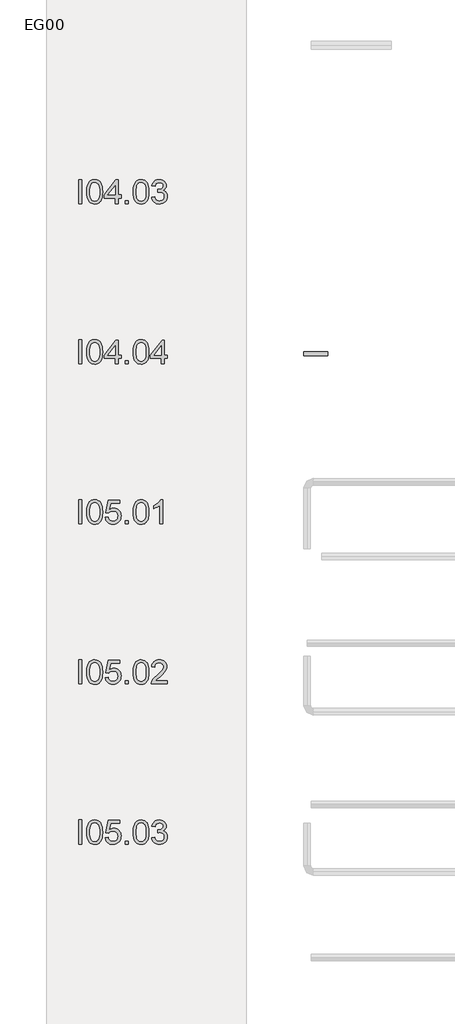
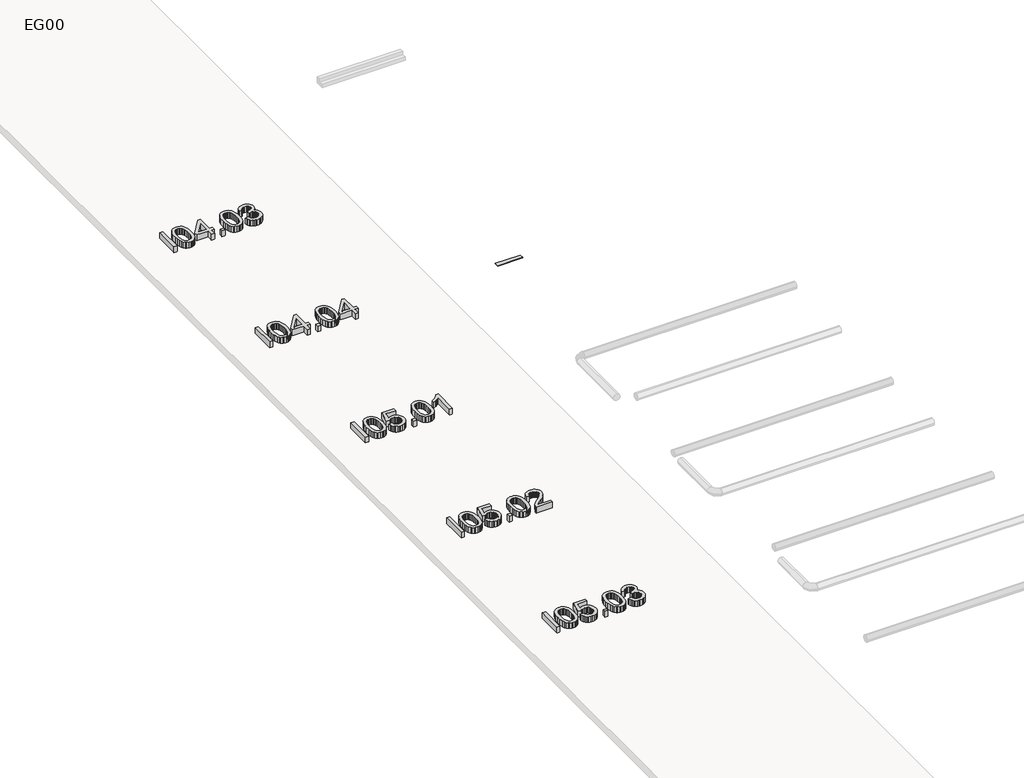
# One storey, part 6 of 11: 6 proxies.
"""IFC4 building model written with IfcOpenShell, lengths in millimetres."""

from ifc_helpers import new_model, si_unit, origin, origin_with_axes, place, context, project, spatial, polyline, outline, extrude, transform, mapped, element, save
from components import entourage_5a65eec9

model = new_model("IFC4")

# Units and contexts
model_context = context("Model", 3, world=origin())
ifc_project = project(units=[si_unit("LENGTHUNIT", "METRE", prefix="MILLI")], contexts=[model_context])

# Site, building, storey
site = spatial("IfcSite", under=ifc_project)
building = spatial("IfcBuilding", under=site)
storey = spatial("IfcBuildingStorey", under=building, Name="EG00", Elevation=0.0)

# Proxies
placement = place(None, origin())
entourage_shape = entourage_5a65eec9(model_context)
element("IfcBuildingElementProxy", 1, Name="Bodenmarkierung : Belagsmarkierung", ObjectType="Bodenmarkierung : Belagsmarkierung", at=placement, inside=storey, context=model_context, shape_type="MappedRepresentation", body=[
    mapped(entourage_shape, transform((47022.626143, -85813.9158724, -9.0), x_axis=(-1.0, 0.0, 0.0), y_axis=(0.0, -1.0, 0.0), z_axis=(0.0, 0.0, 1.0))),
])
element("IfcBuildingElementProxy", 2, Name="600mm Arial", ObjectType="600mm Arial", at=placement, inside=storey, context=model_context, shape_type="SweptSolid", body=[
    extrude(outline(polyline([(41098.4530284, -82070.0529019), (41098.4530284, -81467.315041), (41173.795261, -81467.315041), (41173.795261, -82070.0529019), (41098.4530284, -82070.0529019)])), origin_with_axes(), (0.0, 0.0, 1.0), 150.0),
    extrude(outline(polyline([(41296.226389, -81773.5400137), (41301.763013, -81677.0629605), (41308.6837931, -81636.1498841), (41318.3728851, -81600.1204412), (41330.7889025, -81568.6803262), (41345.8904584, -81541.5352335), (41363.6775528, -81518.6851631), (41384.1501859, -81500.1301149), (41407.3773353, -81485.7735201), (41433.4279791, -81475.5188095), (41462.3021172, -81469.3659831), (41493.9997496, -81467.315041), (41540.4264574, -81472.1710833), (41581.9971229, -81486.7392103), (41616.7619714, -81510.4492049), (41642.7712285, -81542.73085), (41662.416127, -81583.308234), (41678.0879, -81631.9054456), (41688.3518077, -81693.6176503), (41691.7731102, -81773.5400137), (41686.2916685, -81869.465244), (41679.4398663, -81910.2403646), (41669.8473433, -81946.2238223), (41657.527895, -81977.6777329), (41642.495317, -82004.8642123), (41624.7496092, -82027.7832606), (41604.2907718, -82046.4348778), (41581.0360312, -82060.8880417), (41554.9026139, -82071.2117301), (41525.8905201, -82077.4059432), (41493.9997496, -82079.4706809), (41452.5026606, -82075.8838315), (41415.7144611, -82065.1232831), (41383.6351511, -82047.1890359), (41356.2647306, -82022.0810897), (41329.9979562, -81976.6936485), (41311.2359744, -81920.1409888), (41299.9787854, -81852.4231106), (41296.226389, -81773.5400137)]), holes=[polyline([(41371.5686216, -81773.3928609), (41373.7759136, -81838.8896517), (41380.3977895, -81891.9060457), (41391.4342494, -81932.442043), (41406.8852932, -81960.4976437), (41425.5736985, -81979.5861207), (41446.3222431, -81993.2207472), (41469.1309268, -82001.401523), (41493.9997496, -82004.1284483), (41518.8685725, -82001.392326), (41541.6772562, -81993.183959), (41562.4258007, -81979.5033473), (41581.1142061, -81960.3504909), (41596.5652499, -81932.248905), (41607.6017097, -81891.7221047), (41614.2235857, -81838.77009), (41616.4308776, -81773.3928609), (41614.297162, -81709.6297141), (41607.8960153, -81657.5468207), (41597.2274375, -81617.1441805), (41582.2914285, -81588.4217938), (41563.9157228, -81568.3998162), (41542.928055, -81554.0984036), (41519.328425, -81545.5175561), (41493.1168328, -81542.6572736), (41468.3767687, -81545.1772652), (41445.9543611, -81552.7372402), (41425.84961, -81565.3371986), (41408.0625156, -81582.9771402), (41392.096437, -81614.2471098), (41380.6920951, -81656.4063865), (41373.84949, -81709.4549702), (41371.5686216, -81773.3928609)])]), origin_with_axes(), (0.0, 0.0, 1.0), 150.0),
    extrude(outline(polyline([(42002.5598198, -82070.0529019), (42002.5598198, -81928.7862157), (41729.4442265, -81928.7862157), (41729.4442265, -81853.4439831), (42021.3953779, -81476.73282), (42077.9020524, -81476.73282), (42077.9020524, -81853.4439831), (42153.244285, -81853.4439831), (42153.244285, -81928.7862157), (42077.9020524, -81928.7862157), (42077.9020524, -82070.0529019), (42002.5598198, -82070.0529019)]), holes=[polyline([(42002.5598198, -81853.4439831), (42002.5598198, -81620.6482566), (41822.1504893, -81853.4439831), (42002.5598198, -81853.4439831)])]), origin_with_axes(), (0.0, 0.0, 1.0), 150.0),
    extrude(outline(polyline([(42256.8398548, -82070.0529019), (42256.8398548, -81994.7106692), (42332.1820874, -81994.7106692), (42332.1820874, -82070.0529019), (42256.8398548, -82070.0529019)])), origin_with_axes(), (0.0, 0.0, 1.0), 150.0),
    extrude(outline(polyline([(42454.6132154, -81773.5400137), (42460.1498395, -81677.0629605), (42467.0706195, -81636.1498841), (42476.7597115, -81600.1204412), (42489.1757289, -81568.6803262), (42504.2772848, -81541.5352335), (42522.0643792, -81518.6851631), (42542.5370123, -81500.1301149), (42565.7641618, -81485.7735201), (42591.8148055, -81475.5188095), (42620.6889436, -81469.3659831), (42652.386576, -81467.315041), (42698.8132838, -81472.1710833), (42740.3839493, -81486.7392103), (42775.1487978, -81510.4492049), (42801.1580549, -81542.73085), (42820.8029534, -81583.308234), (42836.4747264, -81631.9054456), (42846.7386341, -81693.6176503), (42850.1599366, -81773.5400137), (42844.6784949, -81869.465244), (42837.8266928, -81910.2403646), (42828.2341697, -81946.2238223), (42815.9147214, -81977.6777329), (42800.8821434, -82004.8642123), (42783.1364357, -82027.7832606), (42762.6775982, -82046.4348778), (42739.4228576, -82060.8880417), (42713.2894403, -82071.2117301), (42684.2773465, -82077.4059432), (42652.386576, -82079.4706809), (42610.889487, -82075.8838315), (42574.1012875, -82065.1232831), (42542.0219775, -82047.1890359), (42514.651557, -82022.0810897), (42488.3847826, -81976.6936485), (42469.6228008, -81920.1409888), (42458.3656118, -81852.4231106), (42454.6132154, -81773.5400137)]), holes=[polyline([(42529.955448, -81773.3928609), (42532.16274, -81838.8896517), (42538.7846159, -81891.9060457), (42549.8210758, -81932.442043), (42565.2721196, -81960.4976437), (42583.9605249, -81979.5861207), (42604.7090695, -81993.2207472), (42627.5177532, -82001.401523), (42652.386576, -82004.1284483), (42677.2553989, -82001.392326), (42700.0640826, -81993.183959), (42720.8126271, -81979.5033473), (42739.5010325, -81960.3504909), (42754.9520763, -81932.248905), (42765.9885362, -81891.7221047), (42772.6104121, -81838.77009), (42774.817704, -81773.3928609), (42772.6839885, -81709.6297141), (42766.2828417, -81657.5468207), (42755.6142639, -81617.1441805), (42740.6782549, -81588.4217938), (42722.3025492, -81568.3998162), (42701.3148814, -81554.0984036), (42677.7152514, -81545.5175561), (42651.5036593, -81542.6572736), (42626.7635951, -81545.1772652), (42604.3411875, -81552.7372402), (42584.2364364, -81565.3371986), (42566.449342, -81582.9771402), (42550.4832634, -81614.2471098), (42539.0789215, -81656.4063865), (42532.2363164, -81709.4549702), (42529.955448, -81773.3928609)])]), origin_with_axes(), (0.0, 0.0, 1.0), 150.0),
    extrude(outline(polyline([(42916.0843902, -81909.9506576), (42991.4266228, -81900.5328785), (43008.2940123, -81947.8792913), (43019.6661644, -81965.7859474), (43032.9972882, -81979.8482366), (43048.5908863, -81990.4708293), (43066.7504613, -81998.0583954), (43087.4760132, -82002.6109351), (43110.767542, -82004.1284483), (43138.0643861, -82002.040718), (43162.4181742, -81995.777527), (43183.8289063, -81985.3388754), (43202.2965824, -81970.7247632), (43217.1682121, -81953.0296392), (43227.7908047, -81933.3479525), (43234.1643603, -81911.6797029), (43236.2888788, -81888.0248906), (43234.1827544, -81865.496717), (43227.8643811, -81845.0010913), (43217.333759, -81826.5380137), (43202.590888, -81810.1074841), (43184.6014585, -81796.6200104), (43164.3311605, -81786.9861007), (43141.7799942, -81781.2057548), (43116.9479595, -81779.2789729), (43093.1459945, -81781.339112), (43064.120105, -81787.5195296), (43072.5078145, -81712.177297), (43084.574344, -81713.0602137), (43129.7134648, -81707.6523484), (43170.0701197, -81691.4287524), (43186.6799917, -81679.1598879), (43198.5441861, -81663.9847556), (43205.6627027, -81645.9033555), (43208.0355416, -81624.9156877), (43206.3156932, -81607.8781528), (43201.1561482, -81592.3765252), (43192.5569066, -81578.410805), (43180.5179683, -81565.9809921), (43165.7659003, -81555.7768652), (43149.0272695, -81548.4882032), (43109.5903196, -81542.6572736), (43088.9337456, -81544.1288016), (43070.0797934, -81548.5433855), (43053.0284629, -81555.9010254), (43037.7797542, -81566.2017213), (43024.7107463, -81579.4454731), (43014.1985183, -81595.6322809), (43006.2430702, -81614.7621446), (43000.8444019, -81636.8350643), (42925.5021693, -81627.4172853), (42934.4325047, -81591.4476232), (42947.6854536, -81559.7637864), (42965.2610159, -81532.3657748), (42987.1591917, -81509.2535884), (43012.6902021, -81490.9054739), (43041.1642685, -81477.7996778), (43072.5813909, -81469.9362002), (43106.9415693, -81467.315041), (43154.3063762, -81472.483783), (43197.8084221, -81487.9900091), (43234.486257, -81512.4541618), (43261.3784309, -81544.4966836), (43277.8779383, -81581.4136418), (43283.3777742, -81620.5011038), (43278.1538498, -81656.9214213), (43262.4820768, -81689.9572244), (43236.5831844, -81718.1001971), (43200.6779017, -81739.842023), (43225.7858478, -81747.6963036), (43247.8403734, -81758.8983103), (43266.8414785, -81773.4480432), (43282.789163, -81791.3455023), (43295.4075154, -81812.1492291), (43304.4206243, -81835.4177653), (43309.8284896, -81861.1511109), (43311.6311114, -81889.3492658), (43308.0258678, -81927.5722051), (43297.2101372, -81962.7785121), (43279.1839194, -81994.9681866), (43253.9472146, -82024.1412289), (43223.2014768, -82048.3478641), (43188.6481604, -82065.6383179), (43150.2872654, -82076.0125902), (43108.1187917, -82079.4706809), (43070.006217, -82076.5184279), (43035.2781566, -82067.6616689), (43003.9346106, -82052.9004038), (42975.975579, -82032.2346328), (42952.5322989, -82006.8783662), (42934.7360073, -81978.0456149), (42922.5867044, -81945.7363786), (42916.0843902, -81909.9506576)])), origin_with_axes(), (0.0, 0.0, 1.0), 150.0),
])
element("IfcBuildingElementProxy", 3, Name="600mm Arial", ObjectType="600mm Arial", at=placement, inside=storey, context=model_context, shape_type="SweptSolid", body=[
    extrude(outline(polyline([(41098.4530284, -86070.0529019), (41098.4530284, -85467.315041), (41173.795261, -85467.315041), (41173.795261, -86070.0529019), (41098.4530284, -86070.0529019)])), origin_with_axes(), (0.0, 0.0, 1.0), 150.0),
    extrude(outline(polyline([(41296.226389, -85773.5400137), (41301.763013, -85677.0629605), (41308.6837931, -85636.1498841), (41318.3728851, -85600.1204412), (41330.7889025, -85568.6803262), (41345.8904584, -85541.5352335), (41363.6775528, -85518.6851631), (41384.1501859, -85500.1301149), (41407.3773353, -85485.7735201), (41433.4279791, -85475.5188095), (41462.3021172, -85469.3659831), (41493.9997496, -85467.315041), (41540.4264574, -85472.1710833), (41581.9971229, -85486.7392103), (41616.7619714, -85510.4492049), (41642.7712285, -85542.73085), (41662.416127, -85583.308234), (41678.0879, -85631.9054456), (41688.3518077, -85693.6176503), (41691.7731102, -85773.5400137), (41686.2916685, -85869.465244), (41679.4398663, -85910.2403646), (41669.8473433, -85946.2238223), (41657.527895, -85977.6777329), (41642.495317, -86004.8642123), (41624.7496092, -86027.7832606), (41604.2907718, -86046.4348778), (41581.0360312, -86060.8880417), (41554.9026139, -86071.2117301), (41525.8905201, -86077.4059432), (41493.9997496, -86079.4706809), (41452.5026606, -86075.8838315), (41415.7144611, -86065.1232831), (41383.6351511, -86047.1890359), (41356.2647306, -86022.0810897), (41329.9979562, -85976.6936485), (41311.2359744, -85920.1409888), (41299.9787854, -85852.4231106), (41296.226389, -85773.5400137)]), holes=[polyline([(41371.5686216, -85773.3928609), (41373.7759136, -85838.8896517), (41380.3977895, -85891.9060457), (41391.4342494, -85932.442043), (41406.8852932, -85960.4976437), (41425.5736985, -85979.5861207), (41446.3222431, -85993.2207472), (41469.1309268, -86001.401523), (41493.9997496, -86004.1284483), (41518.8685725, -86001.392326), (41541.6772562, -85993.183959), (41562.4258007, -85979.5033473), (41581.1142061, -85960.3504909), (41596.5652499, -85932.248905), (41607.6017097, -85891.7221047), (41614.2235857, -85838.77009), (41616.4308776, -85773.3928609), (41614.297162, -85709.6297141), (41607.8960153, -85657.5468207), (41597.2274375, -85617.1441805), (41582.2914285, -85588.4217938), (41563.9157228, -85568.3998162), (41542.928055, -85554.0984036), (41519.328425, -85545.5175561), (41493.1168328, -85542.6572736), (41468.3767687, -85545.1772652), (41445.9543611, -85552.7372402), (41425.84961, -85565.3371986), (41408.0625156, -85582.9771402), (41392.096437, -85614.2471098), (41380.6920951, -85656.4063865), (41373.84949, -85709.4549702), (41371.5686216, -85773.3928609)])]), origin_with_axes(), (0.0, 0.0, 1.0), 150.0),
    extrude(outline(polyline([(42002.5598198, -86070.0529019), (42002.5598198, -85928.7862157), (41729.4442265, -85928.7862157), (41729.4442265, -85853.4439831), (42021.3953779, -85476.73282), (42077.9020524, -85476.73282), (42077.9020524, -85853.4439831), (42153.244285, -85853.4439831), (42153.244285, -85928.7862157), (42077.9020524, -85928.7862157), (42077.9020524, -86070.0529019), (42002.5598198, -86070.0529019)]), holes=[polyline([(42002.5598198, -85853.4439831), (42002.5598198, -85620.6482566), (41822.1504893, -85853.4439831), (42002.5598198, -85853.4439831)])]), origin_with_axes(), (0.0, 0.0, 1.0), 150.0),
    extrude(outline(polyline([(42256.8398548, -86070.0529019), (42256.8398548, -85994.7106692), (42332.1820874, -85994.7106692), (42332.1820874, -86070.0529019), (42256.8398548, -86070.0529019)])), origin_with_axes(), (0.0, 0.0, 1.0), 150.0),
    extrude(outline(polyline([(42454.6132154, -85773.5400137), (42460.1498395, -85677.0629605), (42467.0706195, -85636.1498841), (42476.7597115, -85600.1204412), (42489.1757289, -85568.6803262), (42504.2772848, -85541.5352335), (42522.0643792, -85518.6851631), (42542.5370123, -85500.1301149), (42565.7641618, -85485.7735201), (42591.8148055, -85475.5188095), (42620.6889436, -85469.3659831), (42652.386576, -85467.315041), (42698.8132838, -85472.1710833), (42740.3839493, -85486.7392103), (42775.1487978, -85510.4492049), (42801.1580549, -85542.73085), (42820.8029534, -85583.308234), (42836.4747264, -85631.9054456), (42846.7386341, -85693.6176503), (42850.1599366, -85773.5400137), (42844.6784949, -85869.465244), (42837.8266928, -85910.2403646), (42828.2341697, -85946.2238223), (42815.9147214, -85977.6777329), (42800.8821434, -86004.8642123), (42783.1364357, -86027.7832606), (42762.6775982, -86046.4348778), (42739.4228576, -86060.8880417), (42713.2894403, -86071.2117301), (42684.2773465, -86077.4059432), (42652.386576, -86079.4706809), (42610.889487, -86075.8838315), (42574.1012875, -86065.1232831), (42542.0219775, -86047.1890359), (42514.651557, -86022.0810897), (42488.3847826, -85976.6936485), (42469.6228008, -85920.1409888), (42458.3656118, -85852.4231106), (42454.6132154, -85773.5400137)]), holes=[polyline([(42529.955448, -85773.3928609), (42532.16274, -85838.8896517), (42538.7846159, -85891.9060457), (42549.8210758, -85932.442043), (42565.2721196, -85960.4976437), (42583.9605249, -85979.5861207), (42604.7090695, -85993.2207472), (42627.5177532, -86001.401523), (42652.386576, -86004.1284483), (42677.2553989, -86001.392326), (42700.0640826, -85993.183959), (42720.8126271, -85979.5033473), (42739.5010325, -85960.3504909), (42754.9520763, -85932.248905), (42765.9885362, -85891.7221047), (42772.6104121, -85838.77009), (42774.817704, -85773.3928609), (42772.6839885, -85709.6297141), (42766.2828417, -85657.5468207), (42755.6142639, -85617.1441805), (42740.6782549, -85588.4217938), (42722.3025492, -85568.3998162), (42701.3148814, -85554.0984036), (42677.7152514, -85545.5175561), (42651.5036593, -85542.6572736), (42626.7635951, -85545.1772652), (42604.3411875, -85552.7372402), (42584.2364364, -85565.3371986), (42566.449342, -85582.9771402), (42550.4832634, -85614.2471098), (42539.0789215, -85656.4063865), (42532.2363164, -85709.4549702), (42529.955448, -85773.3928609)])]), origin_with_axes(), (0.0, 0.0, 1.0), 150.0),
    extrude(outline(polyline([(43160.9466462, -86070.0529019), (43160.9466462, -85928.7862157), (42887.831053, -85928.7862157), (42887.831053, -85853.4439831), (43179.7822043, -85476.73282), (43236.2888788, -85476.73282), (43236.2888788, -85853.4439831), (43311.6311114, -85853.4439831), (43311.6311114, -85928.7862157), (43236.2888788, -85928.7862157), (43236.2888788, -86070.0529019), (43160.9466462, -86070.0529019)]), holes=[polyline([(43160.9466462, -85853.4439831), (43160.9466462, -85620.6482566), (42980.5373157, -85853.4439831), (43160.9466462, -85853.4439831)])]), origin_with_axes(), (0.0, 0.0, 1.0), 150.0),
])
element("IfcBuildingElementProxy", 4, Name="600mm Arial", ObjectType="600mm Arial", at=placement, inside=storey, context=model_context, shape_type="SweptSolid", body=[
    extrude(outline(polyline([(41098.4530284, -90070.0529019), (41098.4530284, -89467.315041), (41173.795261, -89467.315041), (41173.795261, -90070.0529019), (41098.4530284, -90070.0529019)])), origin_with_axes(), (0.0, 0.0, 1.0), 150.0),
    extrude(outline(polyline([(41296.226389, -89773.5400137), (41301.763013, -89677.0629605), (41308.6837931, -89636.1498841), (41318.3728851, -89600.1204412), (41330.7889025, -89568.6803262), (41345.8904584, -89541.5352335), (41363.6775528, -89518.6851631), (41384.1501859, -89500.1301149), (41407.3773353, -89485.7735201), (41433.4279791, -89475.5188095), (41462.3021172, -89469.3659831), (41493.9997496, -89467.315041), (41540.4264574, -89472.1710833), (41581.9971229, -89486.7392103), (41616.7619714, -89510.4492049), (41642.7712285, -89542.73085), (41662.416127, -89583.308234), (41678.0879, -89631.9054456), (41688.3518077, -89693.6176503), (41691.7731102, -89773.5400137), (41686.2916685, -89869.465244), (41679.4398663, -89910.2403646), (41669.8473433, -89946.2238223), (41657.527895, -89977.6777329), (41642.495317, -90004.8642123), (41624.7496092, -90027.7832606), (41604.2907718, -90046.4348778), (41581.0360312, -90060.8880417), (41554.9026139, -90071.2117301), (41525.8905201, -90077.4059432), (41493.9997496, -90079.4706809), (41452.5026606, -90075.8838315), (41415.7144611, -90065.1232831), (41383.6351511, -90047.1890359), (41356.2647306, -90022.0810897), (41329.9979562, -89976.6936485), (41311.2359744, -89920.1409888), (41299.9787854, -89852.4231106), (41296.226389, -89773.5400137)]), holes=[polyline([(41371.5686216, -89773.3928609), (41373.7759136, -89838.8896517), (41380.3977895, -89891.9060457), (41391.4342494, -89932.442043), (41406.8852932, -89960.4976437), (41425.5736985, -89979.5861207), (41446.3222431, -89993.2207472), (41469.1309268, -90001.401523), (41493.9997496, -90004.1284483), (41518.8685725, -90001.392326), (41541.6772562, -89993.183959), (41562.4258007, -89979.5033473), (41581.1142061, -89960.3504909), (41596.5652499, -89932.248905), (41607.6017097, -89891.7221047), (41614.2235857, -89838.77009), (41616.4308776, -89773.3928609), (41614.297162, -89709.6297141), (41607.8960153, -89657.5468207), (41597.2274375, -89617.1441805), (41582.2914285, -89588.4217938), (41563.9157228, -89568.3998162), (41542.928055, -89554.0984036), (41519.328425, -89545.5175561), (41493.1168328, -89542.6572736), (41468.3767687, -89545.1772652), (41445.9543611, -89552.7372402), (41425.84961, -89565.3371986), (41408.0625156, -89582.9771402), (41392.096437, -89614.2471098), (41380.6920951, -89656.4063865), (41373.84949, -89709.4549702), (41371.5686216, -89773.3928609)])]), origin_with_axes(), (0.0, 0.0, 1.0), 150.0),
    extrude(outline(polyline([(41757.6975638, -89909.9506576), (41833.0397964, -89900.5328785), (41838.6683909, -89924.7533093), (41846.8721594, -89945.7639698), (41857.6511019, -89963.5648598), (41871.0052183, -89978.1559795), (41886.9069175, -89989.5189346), (41905.3286084, -89997.6353311), (41926.270291, -90002.505169), (41949.7319653, -90004.1284483), (41978.4267609, -90001.8705726), (42003.7370421, -89995.0969453), (42025.6628091, -89983.8075666), (42044.2040616, -89968.0024364), (42058.9469326, -89948.4633039), (42069.4775547, -89925.9719184), (42075.7959279, -89900.52828), (42077.9020524, -89872.1323885), (42075.9292852, -89845.2953969), (42070.0109836, -89821.4382495), (42060.1471476, -89800.5609463), (42046.3377772, -89782.6634872), (42028.5368871, -89768.3068924), (42006.6984922, -89758.0521818), (41980.8225924, -89751.8993554), (41950.9091876, -89749.8484133), (41914.3601114, -89753.122563), (41884.7640049, -89762.9450123), (41861.1275867, -89777.9913859), (41842.4575755, -89796.9373086), (41767.1153428, -89787.5195296), (41833.0397964, -89476.73282), (42124.9909478, -89476.73282), (42124.9909478, -89552.0750527), (41893.9610548, -89552.0750527), (41861.734592, -89718.0634089), (41888.3232632, -89699.0071215), (41915.5557279, -89685.3954877), (41943.4319861, -89677.2285074), (41971.9520378, -89674.5061806), (42008.6436683, -89677.881498), (42042.3462575, -89688.0074499), (42073.0598056, -89704.8840364), (42100.7843125, -89728.5112575), (42123.7355504, -89757.4451765), (42140.1292919, -89790.2418563), (42149.9655367, -89826.9012971), (42153.244285, -89867.4234989), (42150.292032, -89906.4557786), (42141.4352729, -89942.7657315), (42126.6740079, -89976.3533577), (42106.0082368, -90007.2186571), (42074.701479, -90038.8289175), (42038.1707969, -90061.407675), (41996.4161904, -90074.9549294), (41949.4376597, -90079.4706809), (41910.5571313, -90076.5690117), (41875.4381963, -90067.864004), (41844.0808548, -90053.3556578), (41816.4851066, -90033.0439731), (41793.5246716, -90007.9406255), (41776.0732694, -89979.0572904), (41764.1309002, -89946.3939677), (41757.6975638, -89909.9506576)])), origin_with_axes(), (0.0, 0.0, 1.0), 150.0),
    extrude(outline(polyline([(42256.8398548, -90070.0529019), (42256.8398548, -89994.7106692), (42332.1820874, -89994.7106692), (42332.1820874, -90070.0529019), (42256.8398548, -90070.0529019)])), origin_with_axes(), (0.0, 0.0, 1.0), 150.0),
    extrude(outline(polyline([(42454.6132154, -89773.5400137), (42460.1498395, -89677.0629605), (42467.0706195, -89636.1498841), (42476.7597115, -89600.1204412), (42489.1757289, -89568.6803262), (42504.2772848, -89541.5352335), (42522.0643792, -89518.6851631), (42542.5370123, -89500.1301149), (42565.7641618, -89485.7735201), (42591.8148055, -89475.5188095), (42620.6889436, -89469.3659831), (42652.386576, -89467.315041), (42698.8132838, -89472.1710833), (42740.3839493, -89486.7392103), (42775.1487978, -89510.4492049), (42801.1580549, -89542.73085), (42820.8029534, -89583.308234), (42836.4747264, -89631.9054456), (42846.7386341, -89693.6176503), (42850.1599366, -89773.5400137), (42844.6784949, -89869.465244), (42837.8266928, -89910.2403646), (42828.2341697, -89946.2238223), (42815.9147214, -89977.6777329), (42800.8821434, -90004.8642123), (42783.1364357, -90027.7832606), (42762.6775982, -90046.4348778), (42739.4228576, -90060.8880417), (42713.2894403, -90071.2117301), (42684.2773465, -90077.4059432), (42652.386576, -90079.4706809), (42610.889487, -90075.8838315), (42574.1012875, -90065.1232831), (42542.0219775, -90047.1890359), (42514.651557, -90022.0810897), (42488.3847826, -89976.6936485), (42469.6228008, -89920.1409888), (42458.3656118, -89852.4231106), (42454.6132154, -89773.5400137)]), holes=[polyline([(42529.955448, -89773.3928609), (42532.16274, -89838.8896517), (42538.7846159, -89891.9060457), (42549.8210758, -89932.442043), (42565.2721196, -89960.4976437), (42583.9605249, -89979.5861207), (42604.7090695, -89993.2207472), (42627.5177532, -90001.401523), (42652.386576, -90004.1284483), (42677.2553989, -90001.392326), (42700.0640826, -89993.183959), (42720.8126271, -89979.5033473), (42739.5010325, -89960.3504909), (42754.9520763, -89932.248905), (42765.9885362, -89891.7221047), (42772.6104121, -89838.77009), (42774.817704, -89773.3928609), (42772.6839885, -89709.6297141), (42766.2828417, -89657.5468207), (42755.6142639, -89617.1441805), (42740.6782549, -89588.4217938), (42722.3025492, -89568.3998162), (42701.3148814, -89554.0984036), (42677.7152514, -89545.5175561), (42651.5036593, -89542.6572736), (42626.7635951, -89545.1772652), (42604.3411875, -89552.7372402), (42584.2364364, -89565.3371986), (42566.449342, -89582.9771402), (42550.4832634, -89614.2471098), (42539.0789215, -89656.4063865), (42532.2363164, -89709.4549702), (42529.955448, -89773.3928609)])]), origin_with_axes(), (0.0, 0.0, 1.0), 150.0),
    extrude(outline(polyline([(43198.6177625, -90070.0529019), (43123.2755299, -90070.0529019), (43123.2755299, -89600.3411704), (43091.8216193, -89625.7802104), (43051.9064228, -89651.1824622), (43010.0046636, -89673.3841406), (42972.5910646, -89689.2214605), (42972.5910646, -89617.9995062), (43031.7648836, -89585.8098316), (43083.0292396, -89547.5133159), (43123.4410768, -89506.788779), (43150.0573391, -89467.315041), (43198.6177625, -89467.315041), (43198.6177625, -90070.0529019)])), origin_with_axes(), (0.0, 0.0, 1.0), 150.0),
])
element("IfcBuildingElementProxy", 5, Name="600mm Arial", ObjectType="600mm Arial", at=placement, inside=storey, context=model_context, shape_type="SweptSolid", body=[
    extrude(outline(polyline([(41098.4530284, -94070.0529019), (41098.4530284, -93467.315041), (41173.795261, -93467.315041), (41173.795261, -94070.0529019), (41098.4530284, -94070.0529019)])), origin_with_axes(), (0.0, 0.0, 1.0), 150.0),
    extrude(outline(polyline([(41296.226389, -93773.5400137), (41301.763013, -93677.0629605), (41308.6837931, -93636.1498841), (41318.3728851, -93600.1204412), (41330.7889025, -93568.6803262), (41345.8904584, -93541.5352335), (41363.6775528, -93518.6851631), (41384.1501859, -93500.1301149), (41407.3773353, -93485.7735201), (41433.4279791, -93475.5188095), (41462.3021172, -93469.3659831), (41493.9997496, -93467.315041), (41540.4264574, -93472.1710833), (41581.9971229, -93486.7392103), (41616.7619714, -93510.4492049), (41642.7712285, -93542.73085), (41662.416127, -93583.308234), (41678.0879, -93631.9054456), (41688.3518077, -93693.6176503), (41691.7731102, -93773.5400137), (41686.2916685, -93869.465244), (41679.4398663, -93910.2403646), (41669.8473433, -93946.2238223), (41657.527895, -93977.6777329), (41642.495317, -94004.8642123), (41624.7496092, -94027.7832606), (41604.2907718, -94046.4348778), (41581.0360312, -94060.8880417), (41554.9026139, -94071.2117301), (41525.8905201, -94077.4059432), (41493.9997496, -94079.4706809), (41452.5026606, -94075.8838315), (41415.7144611, -94065.1232831), (41383.6351511, -94047.1890359), (41356.2647306, -94022.0810897), (41329.9979562, -93976.6936485), (41311.2359744, -93920.1409888), (41299.9787854, -93852.4231106), (41296.226389, -93773.5400137)]), holes=[polyline([(41371.5686216, -93773.3928609), (41373.7759136, -93838.8896517), (41380.3977895, -93891.9060457), (41391.4342494, -93932.442043), (41406.8852932, -93960.4976437), (41425.5736985, -93979.5861207), (41446.3222431, -93993.2207472), (41469.1309268, -94001.401523), (41493.9997496, -94004.1284483), (41518.8685725, -94001.392326), (41541.6772562, -93993.183959), (41562.4258007, -93979.5033473), (41581.1142061, -93960.3504909), (41596.5652499, -93932.248905), (41607.6017097, -93891.7221047), (41614.2235857, -93838.77009), (41616.4308776, -93773.3928609), (41614.297162, -93709.6297141), (41607.8960153, -93657.5468207), (41597.2274375, -93617.1441805), (41582.2914285, -93588.4217938), (41563.9157228, -93568.3998162), (41542.928055, -93554.0984036), (41519.328425, -93545.5175561), (41493.1168328, -93542.6572736), (41468.3767687, -93545.1772652), (41445.9543611, -93552.7372402), (41425.84961, -93565.3371986), (41408.0625156, -93582.9771402), (41392.096437, -93614.2471098), (41380.6920951, -93656.4063865), (41373.84949, -93709.4549702), (41371.5686216, -93773.3928609)])]), origin_with_axes(), (0.0, 0.0, 1.0), 150.0),
    extrude(outline(polyline([(41757.6975638, -93909.9506576), (41833.0397964, -93900.5328785), (41838.6683909, -93924.7533093), (41846.8721594, -93945.7639698), (41857.6511019, -93963.5648598), (41871.0052183, -93978.1559795), (41886.9069175, -93989.5189346), (41905.3286084, -93997.6353311), (41926.270291, -94002.505169), (41949.7319653, -94004.1284483), (41978.4267609, -94001.8705726), (42003.7370421, -93995.0969453), (42025.6628091, -93983.8075666), (42044.2040616, -93968.0024364), (42058.9469326, -93948.4633039), (42069.4775547, -93925.9719184), (42075.7959279, -93900.52828), (42077.9020524, -93872.1323885), (42075.9292852, -93845.2953969), (42070.0109836, -93821.4382495), (42060.1471476, -93800.5609463), (42046.3377772, -93782.6634872), (42028.5368871, -93768.3068924), (42006.6984922, -93758.0521818), (41980.8225924, -93751.8993554), (41950.9091876, -93749.8484133), (41914.3601114, -93753.122563), (41884.7640049, -93762.9450123), (41861.1275867, -93777.9913859), (41842.4575755, -93796.9373086), (41767.1153428, -93787.5195296), (41833.0397964, -93476.73282), (42124.9909478, -93476.73282), (42124.9909478, -93552.0750527), (41893.9610548, -93552.0750527), (41861.734592, -93718.0634089), (41888.3232632, -93699.0071215), (41915.5557279, -93685.3954877), (41943.4319861, -93677.2285074), (41971.9520378, -93674.5061806), (42008.6436683, -93677.881498), (42042.3462575, -93688.0074499), (42073.0598056, -93704.8840364), (42100.7843125, -93728.5112575), (42123.7355504, -93757.4451765), (42140.1292919, -93790.2418563), (42149.9655367, -93826.9012971), (42153.244285, -93867.4234989), (42150.292032, -93906.4557786), (42141.4352729, -93942.7657315), (42126.6740079, -93976.3533577), (42106.0082368, -94007.2186571), (42074.701479, -94038.8289175), (42038.1707969, -94061.407675), (41996.4161904, -94074.9549294), (41949.4376597, -94079.4706809), (41910.5571313, -94076.5690117), (41875.4381963, -94067.864004), (41844.0808548, -94053.3556578), (41816.4851066, -94033.0439731), (41793.5246716, -94007.9406255), (41776.0732694, -93979.0572904), (41764.1309002, -93946.3939677), (41757.6975638, -93909.9506576)])), origin_with_axes(), (0.0, 0.0, 1.0), 150.0),
    extrude(outline(polyline([(42256.8398548, -94070.0529019), (42256.8398548, -93994.7106692), (42332.1820874, -93994.7106692), (42332.1820874, -94070.0529019), (42256.8398548, -94070.0529019)])), origin_with_axes(), (0.0, 0.0, 1.0), 150.0),
    extrude(outline(polyline([(42454.6132154, -93773.5400137), (42460.1498395, -93677.0629605), (42467.0706195, -93636.1498841), (42476.7597115, -93600.1204412), (42489.1757289, -93568.6803262), (42504.2772848, -93541.5352335), (42522.0643792, -93518.6851631), (42542.5370123, -93500.1301149), (42565.7641618, -93485.7735201), (42591.8148055, -93475.5188095), (42620.6889436, -93469.3659831), (42652.386576, -93467.315041), (42698.8132838, -93472.1710833), (42740.3839493, -93486.7392103), (42775.1487978, -93510.4492049), (42801.1580549, -93542.73085), (42820.8029534, -93583.308234), (42836.4747264, -93631.9054456), (42846.7386341, -93693.6176503), (42850.1599366, -93773.5400137), (42844.6784949, -93869.465244), (42837.8266928, -93910.2403646), (42828.2341697, -93946.2238223), (42815.9147214, -93977.6777329), (42800.8821434, -94004.8642123), (42783.1364357, -94027.7832606), (42762.6775982, -94046.4348778), (42739.4228576, -94060.8880417), (42713.2894403, -94071.2117301), (42684.2773465, -94077.4059432), (42652.386576, -94079.4706809), (42610.889487, -94075.8838315), (42574.1012875, -94065.1232831), (42542.0219775, -94047.1890359), (42514.651557, -94022.0810897), (42488.3847826, -93976.6936485), (42469.6228008, -93920.1409888), (42458.3656118, -93852.4231106), (42454.6132154, -93773.5400137)]), holes=[polyline([(42529.955448, -93773.3928609), (42532.16274, -93838.8896517), (42538.7846159, -93891.9060457), (42549.8210758, -93932.442043), (42565.2721196, -93960.4976437), (42583.9605249, -93979.5861207), (42604.7090695, -93993.2207472), (42627.5177532, -94001.401523), (42652.386576, -94004.1284483), (42677.2553989, -94001.392326), (42700.0640826, -93993.183959), (42720.8126271, -93979.5033473), (42739.5010325, -93960.3504909), (42754.9520763, -93932.248905), (42765.9885362, -93891.7221047), (42772.6104121, -93838.77009), (42774.817704, -93773.3928609), (42772.6839885, -93709.6297141), (42766.2828417, -93657.5468207), (42755.6142639, -93617.1441805), (42740.6782549, -93588.4217938), (42722.3025492, -93568.3998162), (42701.3148814, -93554.0984036), (42677.7152514, -93545.5175561), (42651.5036593, -93542.6572736), (42626.7635951, -93545.1772652), (42604.3411875, -93552.7372402), (42584.2364364, -93565.3371986), (42566.449342, -93582.9771402), (42550.4832634, -93614.2471098), (42539.0789215, -93656.4063865), (42532.2363164, -93709.4549702), (42529.955448, -93773.3928609)])]), origin_with_axes(), (0.0, 0.0, 1.0), 150.0),
    extrude(outline(polyline([(43302.2133323, -93994.7106692), (43302.2133323, -94070.0529019), (42906.6666111, -94070.0529019), (42908.3220801, -94043.52861), (42914.760015, -94018.1079641), (42933.3380558, -93977.512186), (42960.5245352, -93938.1304184), (42999.8511205, -93896.9092408), (43054.8494788, -93850.7952327), (43136.1513997, -93778.5799971), (43184.9325523, -93725.273896), (43199.1603884, -93703.4952819), (43209.3231285, -93682.0109733), (43215.4207726, -93660.8209704), (43217.4533206, -93639.9252731), (43215.5357357, -93620.266579), (43209.782981, -93602.1989745), (43200.1950565, -93585.7224596), (43186.7719622, -93570.8370344), (43170.2586592, -93558.508389), (43151.4001084, -93549.7022138), (43130.1963099, -93544.4185086), (43106.6472637, -93542.6572736), (43081.8382216, -93544.3771219), (43059.6503388, -93549.5366669), (43040.0836152, -93558.1359085), (43023.1380508, -93570.1748468), (43009.4298479, -93585.2488116), (42999.575209, -93602.9531326), (42993.5741339, -93623.2878099), (42991.4266228, -93646.2528434), (42916.0843902, -93636.8350643), (42922.5637118, -93597.9407404), (42934.3497312, -93563.9576411), (42951.4424484, -93534.8857664), (42973.8418634, -93510.7251164), (43001.0329414, -93491.7332084), (43032.5006476, -93478.1675598), (43068.2449819, -93470.0281707), (43108.2659445, -93467.315041), (43148.645592, -93470.3316733), (43184.5830644, -93479.3815704), (43216.0783617, -93494.4647322), (43243.1314839, -93515.5811587), (43264.8595142, -93541.1673515), (43280.3795359, -93569.659812), (43289.6915489, -93601.0585403), (43292.7955532, -93635.3635364), (43289.4478271, -93671.3975778), (43279.4046486, -93706.8062198), (43261.580766, -93742.8218672), (43234.8909272, -93780.6769245), (43192.3453745, -93825.8712276), (43126.9543498, -93883.9046123), (43040.2813518, -93956.3773654), (43006.2890554, -93994.7106692), (43302.2133323, -93994.7106692)])), origin_with_axes(), (0.0, 0.0, 1.0), 150.0),
])
element("IfcBuildingElementProxy", 6, Name="600mm Arial", ObjectType="600mm Arial", at=placement, inside=storey, context=model_context, shape_type="SweptSolid", body=[
    extrude(outline(polyline([(41098.4530284, -98070.0529019), (41098.4530284, -97467.315041), (41173.795261, -97467.315041), (41173.795261, -98070.0529019), (41098.4530284, -98070.0529019)])), origin_with_axes(), (0.0, 0.0, 1.0), 150.0),
    extrude(outline(polyline([(41296.226389, -97773.5400137), (41301.763013, -97677.0629605), (41308.6837931, -97636.1498841), (41318.3728851, -97600.1204412), (41330.7889025, -97568.6803262), (41345.8904584, -97541.5352335), (41363.6775528, -97518.6851631), (41384.1501859, -97500.1301149), (41407.3773353, -97485.7735201), (41433.4279791, -97475.5188095), (41462.3021172, -97469.3659831), (41493.9997496, -97467.315041), (41540.4264574, -97472.1710833), (41581.9971229, -97486.7392103), (41616.7619714, -97510.4492049), (41642.7712285, -97542.73085), (41662.416127, -97583.308234), (41678.0879, -97631.9054456), (41688.3518077, -97693.6176503), (41691.7731102, -97773.5400137), (41686.2916685, -97869.465244), (41679.4398663, -97910.2403646), (41669.8473433, -97946.2238223), (41657.527895, -97977.6777329), (41642.495317, -98004.8642123), (41624.7496092, -98027.7832606), (41604.2907718, -98046.4348778), (41581.0360312, -98060.8880417), (41554.9026139, -98071.2117301), (41525.8905201, -98077.4059432), (41493.9997496, -98079.4706809), (41452.5026606, -98075.8838315), (41415.7144611, -98065.1232831), (41383.6351511, -98047.1890359), (41356.2647306, -98022.0810897), (41329.9979562, -97976.6936485), (41311.2359744, -97920.1409888), (41299.9787854, -97852.4231106), (41296.226389, -97773.5400137)]), holes=[polyline([(41371.5686216, -97773.3928609), (41373.7759136, -97838.8896517), (41380.3977895, -97891.9060457), (41391.4342494, -97932.442043), (41406.8852932, -97960.4976437), (41425.5736985, -97979.5861207), (41446.3222431, -97993.2207472), (41469.1309268, -98001.401523), (41493.9997496, -98004.1284483), (41518.8685725, -98001.392326), (41541.6772562, -97993.183959), (41562.4258007, -97979.5033473), (41581.1142061, -97960.3504909), (41596.5652499, -97932.248905), (41607.6017097, -97891.7221047), (41614.2235857, -97838.77009), (41616.4308776, -97773.3928609), (41614.297162, -97709.6297141), (41607.8960153, -97657.5468207), (41597.2274375, -97617.1441805), (41582.2914285, -97588.4217938), (41563.9157228, -97568.3998162), (41542.928055, -97554.0984036), (41519.328425, -97545.5175561), (41493.1168328, -97542.6572736), (41468.3767687, -97545.1772652), (41445.9543611, -97552.7372402), (41425.84961, -97565.3371986), (41408.0625156, -97582.9771402), (41392.096437, -97614.2471098), (41380.6920951, -97656.4063865), (41373.84949, -97709.4549702), (41371.5686216, -97773.3928609)])]), origin_with_axes(), (0.0, 0.0, 1.0), 150.0),
    extrude(outline(polyline([(41757.6975638, -97909.9506576), (41833.0397964, -97900.5328785), (41838.6683909, -97924.7533093), (41846.8721594, -97945.7639698), (41857.6511019, -97963.5648598), (41871.0052183, -97978.1559795), (41886.9069175, -97989.5189346), (41905.3286084, -97997.6353311), (41926.270291, -98002.505169), (41949.7319653, -98004.1284483), (41978.4267609, -98001.8705726), (42003.7370421, -97995.0969453), (42025.6628091, -97983.8075666), (42044.2040616, -97968.0024364), (42058.9469326, -97948.4633039), (42069.4775547, -97925.9719184), (42075.7959279, -97900.52828), (42077.9020524, -97872.1323885), (42075.9292852, -97845.2953969), (42070.0109836, -97821.4382495), (42060.1471476, -97800.5609463), (42046.3377772, -97782.6634872), (42028.5368871, -97768.3068924), (42006.6984922, -97758.0521818), (41980.8225924, -97751.8993554), (41950.9091876, -97749.8484133), (41914.3601114, -97753.122563), (41884.7640049, -97762.9450123), (41861.1275867, -97777.9913859), (41842.4575755, -97796.9373086), (41767.1153428, -97787.5195296), (41833.0397964, -97476.73282), (42124.9909478, -97476.73282), (42124.9909478, -97552.0750527), (41893.9610548, -97552.0750527), (41861.734592, -97718.0634089), (41888.3232632, -97699.0071215), (41915.5557279, -97685.3954877), (41943.4319861, -97677.2285074), (41971.9520378, -97674.5061806), (42008.6436683, -97677.881498), (42042.3462575, -97688.0074499), (42073.0598056, -97704.8840364), (42100.7843125, -97728.5112575), (42123.7355504, -97757.4451765), (42140.1292919, -97790.2418563), (42149.9655367, -97826.9012971), (42153.244285, -97867.4234989), (42150.292032, -97906.4557786), (42141.4352729, -97942.7657315), (42126.6740079, -97976.3533577), (42106.0082368, -98007.2186571), (42074.701479, -98038.8289175), (42038.1707969, -98061.407675), (41996.4161904, -98074.9549294), (41949.4376597, -98079.4706809), (41910.5571313, -98076.5690117), (41875.4381963, -98067.864004), (41844.0808548, -98053.3556578), (41816.4851066, -98033.0439731), (41793.5246716, -98007.9406255), (41776.0732694, -97979.0572904), (41764.1309002, -97946.3939677), (41757.6975638, -97909.9506576)])), origin_with_axes(), (0.0, 0.0, 1.0), 150.0),
    extrude(outline(polyline([(42256.8398548, -98070.0529019), (42256.8398548, -97994.7106692), (42332.1820874, -97994.7106692), (42332.1820874, -98070.0529019), (42256.8398548, -98070.0529019)])), origin_with_axes(), (0.0, 0.0, 1.0), 150.0),
    extrude(outline(polyline([(42454.6132154, -97773.5400137), (42460.1498395, -97677.0629605), (42467.0706195, -97636.1498841), (42476.7597115, -97600.1204412), (42489.1757289, -97568.6803262), (42504.2772848, -97541.5352335), (42522.0643792, -97518.6851631), (42542.5370123, -97500.1301149), (42565.7641618, -97485.7735201), (42591.8148055, -97475.5188095), (42620.6889436, -97469.3659831), (42652.386576, -97467.315041), (42698.8132838, -97472.1710833), (42740.3839493, -97486.7392103), (42775.1487978, -97510.4492049), (42801.1580549, -97542.73085), (42820.8029534, -97583.308234), (42836.4747264, -97631.9054456), (42846.7386341, -97693.6176503), (42850.1599366, -97773.5400137), (42844.6784949, -97869.465244), (42837.8266928, -97910.2403646), (42828.2341697, -97946.2238223), (42815.9147214, -97977.6777329), (42800.8821434, -98004.8642123), (42783.1364357, -98027.7832606), (42762.6775982, -98046.4348778), (42739.4228576, -98060.8880417), (42713.2894403, -98071.2117301), (42684.2773465, -98077.4059432), (42652.386576, -98079.4706809), (42610.889487, -98075.8838315), (42574.1012875, -98065.1232831), (42542.0219775, -98047.1890359), (42514.651557, -98022.0810897), (42488.3847826, -97976.6936485), (42469.6228008, -97920.1409888), (42458.3656118, -97852.4231106), (42454.6132154, -97773.5400137)]), holes=[polyline([(42529.955448, -97773.3928609), (42532.16274, -97838.8896517), (42538.7846159, -97891.9060457), (42549.8210758, -97932.442043), (42565.2721196, -97960.4976437), (42583.9605249, -97979.5861207), (42604.7090695, -97993.2207472), (42627.5177532, -98001.401523), (42652.386576, -98004.1284483), (42677.2553989, -98001.392326), (42700.0640826, -97993.183959), (42720.8126271, -97979.5033473), (42739.5010325, -97960.3504909), (42754.9520763, -97932.248905), (42765.9885362, -97891.7221047), (42772.6104121, -97838.77009), (42774.817704, -97773.3928609), (42772.6839885, -97709.6297141), (42766.2828417, -97657.5468207), (42755.6142639, -97617.1441805), (42740.6782549, -97588.4217938), (42722.3025492, -97568.3998162), (42701.3148814, -97554.0984036), (42677.7152514, -97545.5175561), (42651.5036593, -97542.6572736), (42626.7635951, -97545.1772652), (42604.3411875, -97552.7372402), (42584.2364364, -97565.3371986), (42566.449342, -97582.9771402), (42550.4832634, -97614.2471098), (42539.0789215, -97656.4063865), (42532.2363164, -97709.4549702), (42529.955448, -97773.3928609)])]), origin_with_axes(), (0.0, 0.0, 1.0), 150.0),
    extrude(outline(polyline([(42916.0843902, -97909.9506576), (42991.4266228, -97900.5328785), (43008.2940123, -97947.8792913), (43019.6661644, -97965.7859474), (43032.9972882, -97979.8482366), (43048.5908863, -97990.4708293), (43066.7504613, -97998.0583954), (43087.4760132, -98002.6109351), (43110.767542, -98004.1284483), (43138.0643861, -98002.040718), (43162.4181742, -97995.777527), (43183.8289063, -97985.3388754), (43202.2965824, -97970.7247632), (43217.1682121, -97953.0296392), (43227.7908047, -97933.3479525), (43234.1643603, -97911.6797029), (43236.2888788, -97888.0248906), (43234.1827544, -97865.496717), (43227.8643811, -97845.0010913), (43217.333759, -97826.5380137), (43202.590888, -97810.1074841), (43184.6014585, -97796.6200104), (43164.3311605, -97786.9861007), (43141.7799942, -97781.2057548), (43116.9479595, -97779.2789729), (43093.1459945, -97781.339112), (43064.120105, -97787.5195296), (43072.5078145, -97712.177297), (43084.574344, -97713.0602137), (43129.7134648, -97707.6523484), (43170.0701197, -97691.4287524), (43186.6799917, -97679.1598879), (43198.5441861, -97663.9847556), (43205.6627027, -97645.9033555), (43208.0355416, -97624.9156877), (43206.3156932, -97607.8781528), (43201.1561482, -97592.3765252), (43192.5569066, -97578.410805), (43180.5179683, -97565.9809921), (43165.7659003, -97555.7768652), (43149.0272695, -97548.4882032), (43109.5903196, -97542.6572736), (43088.9337456, -97544.1288016), (43070.0797934, -97548.5433855), (43053.0284629, -97555.9010254), (43037.7797542, -97566.2017213), (43024.7107463, -97579.4454731), (43014.1985183, -97595.6322809), (43006.2430702, -97614.7621446), (43000.8444019, -97636.8350643), (42925.5021693, -97627.4172853), (42934.4325047, -97591.4476232), (42947.6854536, -97559.7637864), (42965.2610159, -97532.3657748), (42987.1591917, -97509.2535884), (43012.6902021, -97490.9054739), (43041.1642685, -97477.7996778), (43072.5813909, -97469.9362002), (43106.9415693, -97467.315041), (43154.3063762, -97472.483783), (43197.8084221, -97487.9900091), (43234.486257, -97512.4541618), (43261.3784309, -97544.4966836), (43277.8779383, -97581.4136418), (43283.3777742, -97620.5011038), (43278.1538498, -97656.9214213), (43262.4820768, -97689.9572244), (43236.5831844, -97718.1001971), (43200.6779017, -97739.842023), (43225.7858478, -97747.6963036), (43247.8403734, -97758.8983103), (43266.8414785, -97773.4480432), (43282.789163, -97791.3455023), (43295.4075154, -97812.1492291), (43304.4206243, -97835.4177653), (43309.8284896, -97861.1511109), (43311.6311114, -97889.3492658), (43308.0258678, -97927.5722051), (43297.2101372, -97962.7785121), (43279.1839194, -97994.9681866), (43253.9472146, -98024.1412289), (43223.2014768, -98048.3478641), (43188.6481604, -98065.6383179), (43150.2872654, -98076.0125902), (43108.1187917, -98079.4706809), (43070.006217, -98076.5184279), (43035.2781566, -98067.6616689), (43003.9346106, -98052.9004038), (42975.975579, -98032.2346328), (42952.5322989, -98006.8783662), (42934.7360073, -97978.0456149), (42922.5867044, -97945.7363786), (42916.0843902, -97909.9506576)])), origin_with_axes(), (0.0, 0.0, 1.0), 150.0),
])

save(model, "model.ifc")
